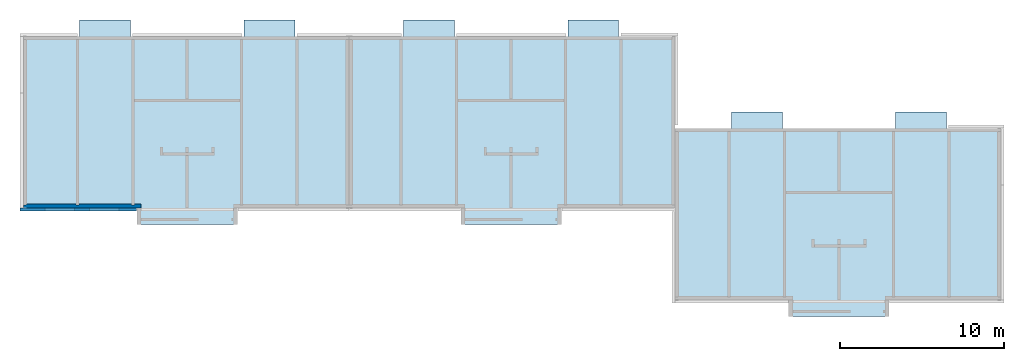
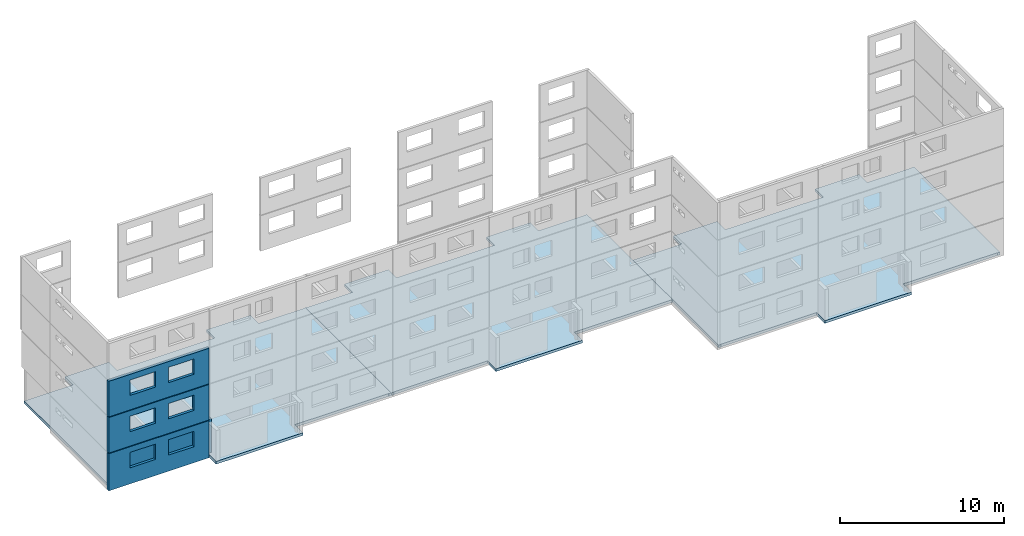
# One storey, part 7 of 15: 4 walls, 3 slabs, 6 openings.
"""IFC2X3 building model written with IfcOpenShell, lengths in metres."""

from ifc_helpers import new_model, si_unit, frame, origin, place, context, project, spatial, faceted_brep, element, save


model = new_model("IFC2X3")

# Units and contexts
model_context = context("Model", 3, precision=1e-06, world=origin())
ifc_project = project(units=[si_unit("LENGTHUNIT", "METRE"), si_unit("PLANEANGLEUNIT", "RADIAN")], contexts=[model_context])

# Site, building, storey
site = spatial("IfcSite", under=ifc_project, CompositionType="ELEMENT")
building = spatial("IfcBuilding", under=site, CompositionType="ELEMENT")
storey = spatial("IfcBuildingStorey", under=building, Name="rdc", CompositionType="ELEMENT", Elevation=0.0)

# Slabs
placement = place(None, origin())
slab_1_placement = place(placement, frame((-6e-15, -0.979922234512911, -0.2), z_axis=(0.0, 0.0, 1.0), x_axis=(1.0, 0.0, 0.0)))
element("IfcSlab", 1, at=slab_1_placement, inside=storey, PredefinedType="USERDEFINED", context=model_context, shape_type="Brep", body=[
    faceted_brep([(0.180000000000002, 11.470000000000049, 0.2), (0.180000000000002, 11.450000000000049, 0.2), (0.180000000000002, 11.450000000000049, 0.0), (0.180000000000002, 11.470000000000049, 0.0), (0.180000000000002, 11.450000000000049, 0.2), (3.430000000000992, 11.450000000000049, 0.2), (3.430000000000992, 11.450000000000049, 0.0), (0.180000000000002, 11.450000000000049, 0.0), (3.430000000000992, 11.450000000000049, 0.2), (3.430000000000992, 12.449999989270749, 0.2), (3.430000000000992, 12.449999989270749, 0.0), (3.430000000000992, 11.450000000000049, 0.0), (3.430000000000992, 12.449999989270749, 0.2), (6.530000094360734, 12.44999984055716, 0.2), (6.530000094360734, 12.44999984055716, 0.0), (3.430000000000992, 12.449999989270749, 0.0), (6.530000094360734, 12.44999984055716, 0.2), (6.530000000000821, 11.4499999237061, 0.2), (6.530000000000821, 11.4499999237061, 0.0), (6.530000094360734, 12.44999984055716, 0.0), (6.530000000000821, 11.4499999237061, 0.2), (13.44, 11.449999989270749, 0.2), (13.44, 11.449999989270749, 0.0), (6.530000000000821, 11.4499999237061, 0.0), (13.44, 11.449999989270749, 0.2), (13.439598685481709, 12.44999984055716, 0.2), (13.439598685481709, 12.44999984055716, 0.0), (13.44, 11.449999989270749, 0.0), (13.439598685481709, 12.44999984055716, 0.2), (16.539598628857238, 12.44999984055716, 0.2), (16.539598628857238, 12.44999984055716, 0.0), (13.439598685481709, 12.44999984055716, 0.0), (16.539598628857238, 12.44999984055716, 0.2), (16.53999999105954, 11.4499999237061, 0.2), (16.53999999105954, 11.4499999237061, 0.0), (16.539598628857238, 12.44999984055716, 0.0), (16.53999999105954, 11.4499999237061, 0.2), (19.669999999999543, 11.450000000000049, 0.2), (19.669999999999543, 11.450000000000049, 0.0), (16.53999999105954, 11.4499999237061, 0.0), (19.669999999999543, 11.450000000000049, 0.2), (19.669999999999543, 11.470000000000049, 0.2), (19.669999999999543, 11.470000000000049, 0.0), (19.669999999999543, 11.450000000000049, 0.0), (19.669999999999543, 11.470000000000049, 0.2), (19.849999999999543, 11.470000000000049, 0.2), (19.849999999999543, 11.470000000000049, 0.0), (19.669999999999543, 11.470000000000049, 0.0), (19.849999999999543, 11.470000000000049, 0.2), (19.849999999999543, 0.979922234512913, 0.2), (19.849999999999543, 0.979922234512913, 0.0), (19.849999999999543, 11.470000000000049, 0.0), (19.849999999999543, 0.979922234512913, 0.2), (19.669999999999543, 0.979922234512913, 0.2), (19.669999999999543, 0.979922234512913, 0.0), (19.849999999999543, 0.979922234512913, 0.0), (19.669999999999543, 0.979922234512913, 0.2), (19.669999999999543, 1.000085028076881, 0.2), (19.669999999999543, 1.000085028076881, 0.0), (19.669999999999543, 0.979922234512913, 0.0), (19.669999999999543, 1.000085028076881, 0.2), (13.045000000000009, 1.000085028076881, 0.2), (13.045000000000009, 1.000085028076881, 0.0), (19.669999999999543, 1.000085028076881, 0.0), (13.045000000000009, 1.000085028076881, 0.2), (13.045000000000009, 8.5242654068e-05, 0.2), (13.045000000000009, 8.5242654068e-05, 0.0), (13.045000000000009, 1.000085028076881, 0.0), (13.045000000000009, 8.5242654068e-05, 0.2), (6.925000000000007, 0.0, 0.2), (6.925000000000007, 0.0, 0.0), (13.045000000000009, 8.5242654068e-05, 0.0), (6.925000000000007, 0.0, 0.2), (6.925000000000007, 0.999999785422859, 0.2), (6.925000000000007, 0.999999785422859, 0.0), (6.925000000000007, 0.0, 0.0), (6.925000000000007, 0.999999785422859, 0.2), (0.18, 0.999999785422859, 0.2), (0.18, 0.999999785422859, 0.0), (6.925000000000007, 0.999999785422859, 0.0), (0.18, 0.999999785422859, 0.2), (0.18, 0.979922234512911, 0.2), (0.18, 0.979922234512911, 0.0), (0.18, 0.999999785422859, 0.0), (0.18, 0.979922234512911, 0.2), (0.0, 0.979922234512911, 0.2), (0.0, 0.979922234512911, 0.0), (0.18, 0.979922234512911, 0.0), (0.0, 0.979922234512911, 0.2), (2e-15, 11.470000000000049, 0.2), (2e-15, 11.470000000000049, 0.0), (0.0, 0.979922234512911, 0.0), (2e-15, 11.470000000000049, 0.2), (0.180000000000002, 11.470000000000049, 0.2), (0.180000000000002, 11.470000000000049, 0.0), (2e-15, 11.470000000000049, 0.0), (0.180000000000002, 11.470000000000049, 0.2), (2e-15, 11.470000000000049, 0.2), (0.0, 0.979922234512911, 0.2), (0.18, 0.979922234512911, 0.2), (0.18, 0.999999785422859, 0.2), (6.925000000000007, 0.999999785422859, 0.2), (6.925000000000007, 0.0, 0.2), (13.045000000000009, 8.5242654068e-05, 0.2), (13.045000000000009, 1.000085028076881, 0.2), (19.669999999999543, 1.000085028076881, 0.2), (19.669999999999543, 0.979922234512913, 0.2), (19.849999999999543, 0.979922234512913, 0.2), (19.849999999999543, 11.470000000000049, 0.2), (19.669999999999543, 11.470000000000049, 0.2), (19.669999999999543, 11.450000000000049, 0.2), (16.53999999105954, 11.4499999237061, 0.2), (16.539598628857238, 12.44999984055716, 0.2), (13.439598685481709, 12.44999984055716, 0.2), (13.44, 11.449999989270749, 0.2), (6.530000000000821, 11.4499999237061, 0.2), (6.530000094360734, 12.44999984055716, 0.2), (3.430000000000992, 12.449999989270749, 0.2), (3.430000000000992, 11.450000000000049, 0.2), (0.180000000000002, 11.450000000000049, 0.2), (0.180000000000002, 11.470000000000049, 0.0), (0.180000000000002, 11.450000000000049, 0.0), (3.430000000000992, 11.450000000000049, 0.0), (3.430000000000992, 12.449999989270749, 0.0), (6.530000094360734, 12.44999984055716, 0.0), (6.530000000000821, 11.4499999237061, 0.0), (13.44, 11.449999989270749, 0.0), (13.439598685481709, 12.44999984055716, 0.0), (16.539598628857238, 12.44999984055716, 0.0), (16.53999999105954, 11.4499999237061, 0.0), (19.669999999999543, 11.450000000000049, 0.0), (19.669999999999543, 11.470000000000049, 0.0), (19.849999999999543, 11.470000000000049, 0.0), (19.849999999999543, 0.979922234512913, 0.0), (19.669999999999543, 0.979922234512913, 0.0), (19.669999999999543, 1.000085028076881, 0.0), (13.045000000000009, 1.000085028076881, 0.0), (13.045000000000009, 8.5242654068e-05, 0.0), (6.925000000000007, 0.0, 0.0), (6.925000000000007, 0.999999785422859, 0.0), (0.18, 0.999999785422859, 0.0), (0.18, 0.979922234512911, 0.0), (0.0, 0.979922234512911, 0.0), (2e-15, 11.470000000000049, 0.0)], [[[0, 1, 2, 3]], [[4, 5, 6, 7]], [[8, 9, 10, 11]], [[12, 13, 14, 15]], [[16, 17, 18, 19]], [[20, 21, 22, 23]], [[24, 25, 26, 27]], [[28, 29, 30, 31]], [[32, 33, 34, 35]], [[36, 37, 38, 39]], [[40, 41, 42, 43]], [[44, 45, 46, 47]], [[48, 49, 50, 51]], [[52, 53, 54, 55]], [[56, 57, 58, 59]], [[60, 61, 62, 63]], [[64, 65, 66, 67]], [[68, 69, 70, 71]], [[72, 73, 74, 75]], [[76, 77, 78, 79]], [[80, 81, 82, 83]], [[84, 85, 86, 87]], [[88, 89, 90, 91]], [[92, 93, 94, 95]], [[96, 97, 98, 99, 100, 101, 102, 103, 104, 105, 106, 107, 108, 109, 110, 111, 112, 113, 114, 115, 116, 117, 118, 119]], [[120, 121, 122, 123, 124, 125, 126, 127, 128, 129, 130, 131, 132, 133, 134, 135, 136, 137, 138, 139, 140, 141, 142, 143]]]),
])
slab_2_placement = place(placement, frame((19.849999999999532, -0.97983699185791, -0.2), z_axis=(0.0, 0.0, 1.0), x_axis=(1.0, 0.0, 0.0)))
element("IfcSlab", 2, at=slab_2_placement, inside=storey, PredefinedType="USERDEFINED", context=model_context, shape_type="Brep", body=[
    faceted_brep([(0.180000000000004, 11.46991475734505, 0.2), (0.180000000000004, 11.44991475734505, 0.2), (0.180000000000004, 11.44991475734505, 0.0), (0.180000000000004, 11.46991475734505, 0.0), (0.180000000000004, 11.44991475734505, 0.2), (3.310000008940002, 11.4499146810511, 0.2), (3.310000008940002, 11.4499146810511, 0.0), (0.180000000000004, 11.44991475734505, 0.0), (3.310000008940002, 11.4499146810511, 0.2), (3.310401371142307, 12.44991459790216, 0.2), (3.310401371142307, 12.44991459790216, 0.0), (3.310000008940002, 11.4499146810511, 0.0), (3.310401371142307, 12.44991459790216, 0.2), (6.410401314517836, 12.44991459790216, 0.2), (6.410401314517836, 12.44991459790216, 0.0), (3.310401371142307, 12.44991459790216, 0.0), (6.410401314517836, 12.44991459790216, 0.2), (6.409999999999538, 11.44991474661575, 0.2), (6.409999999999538, 11.44991474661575, 0.0), (6.410401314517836, 12.44991459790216, 0.0), (6.409999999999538, 11.44991474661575, 0.2), (13.31999999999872, 11.4499146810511, 0.2), (13.31999999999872, 11.4499146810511, 0.0), (6.409999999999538, 11.44991474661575, 0.0), (13.31999999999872, 11.4499146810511, 0.2), (13.31999990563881, 12.44991459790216, 0.2), (13.31999990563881, 12.44991459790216, 0.0), (13.31999999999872, 11.4499146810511, 0.0), (13.31999990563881, 12.44991459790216, 0.2), (16.41999999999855, 12.44991474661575, 0.2), (16.41999999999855, 12.44991474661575, 0.0), (13.31999990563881, 12.44991459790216, 0.0), (16.41999999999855, 12.44991474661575, 0.2), (16.41999999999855, 11.44991475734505, 0.2), (16.41999999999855, 11.44991475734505, 0.0), (16.41999999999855, 12.44991474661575, 0.0), (16.41999999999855, 11.44991475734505, 0.2), (19.669999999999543, 11.44991475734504, 0.2), (19.669999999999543, 11.44991475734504, 0.0), (16.41999999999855, 11.44991475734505, 0.0), (19.669999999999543, 11.44991475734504, 0.2), (19.669999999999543, 11.46991475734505, 0.2), (19.669999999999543, 11.46991475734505, 0.0), (19.669999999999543, 11.44991475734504, 0.0), (19.669999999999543, 11.46991475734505, 0.2), (19.849999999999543, 11.46991475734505, 0.2), (19.849999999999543, 11.46991475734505, 0.0), (19.669999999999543, 11.46991475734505, 0.0), (19.849999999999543, 11.46991475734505, 0.2), (19.849999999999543, 0.999914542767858, 0.2), (19.849999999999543, 0.999914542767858, 0.0), (19.849999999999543, 11.46991475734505, 0.0), (19.849999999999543, 0.999914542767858, 0.2), (12.92499999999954, 0.999914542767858, 0.2), (12.92499999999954, 0.999914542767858, 0.0), (19.849999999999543, 0.999914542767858, 0.0), (12.92499999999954, 0.999914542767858, 0.2), (12.92499999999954, 0.0, 0.2), (12.92499999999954, 0.0, 0.0), (12.92499999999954, 0.999914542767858, 0.0), (12.92499999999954, 0.0, 0.2), (6.805000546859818, 9.32e-13, 0.2), (6.805000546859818, 9.32e-13, 0.0), (12.92499999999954, 0.0, 0.0), (6.805000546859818, 9.32e-13, 0.2), (6.805000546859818, 0.99999978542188, 0.2), (6.805000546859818, 0.99999978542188, 0.0), (6.805000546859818, 9.32e-13, 0.0), (6.805000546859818, 0.99999978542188, 0.2), (0.18, 0.99999978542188, 0.2), (0.18, 0.99999978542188, 0.0), (6.805000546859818, 0.99999978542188, 0.0), (0.18, 0.99999978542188, 0.2), (0.18, 0.979836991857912, 0.2), (0.18, 0.979836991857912, 0.0), (0.18, 0.99999978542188, 0.0), (0.18, 0.979836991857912, 0.2), (0.0, 0.979836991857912, 0.2), (0.0, 0.979836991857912, 0.0), (0.18, 0.979836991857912, 0.0), (0.0, 0.979836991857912, 0.2), (4e-15, 11.46991475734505, 0.2), (4e-15, 11.46991475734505, 0.0), (0.0, 0.979836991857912, 0.0), (4e-15, 11.46991475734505, 0.2), (0.180000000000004, 11.46991475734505, 0.2), (0.180000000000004, 11.46991475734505, 0.0), (4e-15, 11.46991475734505, 0.0), (0.180000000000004, 11.46991475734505, 0.2), (4e-15, 11.46991475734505, 0.2), (0.0, 0.979836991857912, 0.2), (0.18, 0.979836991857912, 0.2), (0.18, 0.99999978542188, 0.2), (6.805000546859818, 0.99999978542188, 0.2), (6.805000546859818, 9.32e-13, 0.2), (12.92499999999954, 0.0, 0.2), (12.92499999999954, 0.999914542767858, 0.2), (19.849999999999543, 0.999914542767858, 0.2), (19.849999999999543, 11.46991475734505, 0.2), (19.669999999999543, 11.46991475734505, 0.2), (19.669999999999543, 11.44991475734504, 0.2), (16.41999999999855, 11.44991475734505, 0.2), (16.41999999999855, 12.44991474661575, 0.2), (13.31999990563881, 12.44991459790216, 0.2), (13.31999999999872, 11.4499146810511, 0.2), (6.409999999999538, 11.44991474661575, 0.2), (6.410401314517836, 12.44991459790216, 0.2), (3.310401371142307, 12.44991459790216, 0.2), (3.310000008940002, 11.4499146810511, 0.2), (0.180000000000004, 11.44991475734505, 0.2), (0.180000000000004, 11.46991475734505, 0.0), (0.180000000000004, 11.44991475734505, 0.0), (3.310000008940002, 11.4499146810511, 0.0), (3.310401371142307, 12.44991459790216, 0.0), (6.410401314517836, 12.44991459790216, 0.0), (6.409999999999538, 11.44991474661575, 0.0), (13.31999999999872, 11.4499146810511, 0.0), (13.31999990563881, 12.44991459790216, 0.0), (16.41999999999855, 12.44991474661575, 0.0), (16.41999999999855, 11.44991475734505, 0.0), (19.669999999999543, 11.44991475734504, 0.0), (19.669999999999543, 11.46991475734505, 0.0), (19.849999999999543, 11.46991475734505, 0.0), (19.849999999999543, 0.999914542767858, 0.0), (12.92499999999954, 0.999914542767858, 0.0), (12.92499999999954, 0.0, 0.0), (6.805000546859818, 9.32e-13, 0.0), (6.805000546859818, 0.99999978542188, 0.0), (0.18, 0.99999978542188, 0.0), (0.18, 0.979836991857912, 0.0), (0.0, 0.979836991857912, 0.0), (4e-15, 11.46991475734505, 0.0)], [[[0, 1, 2, 3]], [[4, 5, 6, 7]], [[8, 9, 10, 11]], [[12, 13, 14, 15]], [[16, 17, 18, 19]], [[20, 21, 22, 23]], [[24, 25, 26, 27]], [[28, 29, 30, 31]], [[32, 33, 34, 35]], [[36, 37, 38, 39]], [[40, 41, 42, 43]], [[44, 45, 46, 47]], [[48, 49, 50, 51]], [[52, 53, 54, 55]], [[56, 57, 58, 59]], [[60, 61, 62, 63]], [[64, 65, 66, 67]], [[68, 69, 70, 71]], [[72, 73, 74, 75]], [[76, 77, 78, 79]], [[80, 81, 82, 83]], [[84, 85, 86, 87]], [[88, 89, 90, 91, 92, 93, 94, 95, 96, 97, 98, 99, 100, 101, 102, 103, 104, 105, 106, 107, 108, 109]], [[110, 111, 112, 113, 114, 115, 116, 117, 118, 119, 120, 121, 122, 123, 124, 125, 126, 127, 128, 129, 130, 131]]]),
])
slab_3_placement = place(placement, frame((39.69999999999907, -6.579922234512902, -0.2), z_axis=(0.0, 0.0, 1.0), x_axis=(1.0, 0.0, 0.0)))
element("IfcSlab", 3, at=slab_3_placement, inside=storey, PredefinedType="USERDEFINED", context=model_context, shape_type="Brep", body=[
    faceted_brep([(0.18, 11.450000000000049, 0.2), (3.430000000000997, 11.450000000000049, 0.2), (3.430000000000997, 11.450000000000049, 0.0), (0.18, 11.450000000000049, 0.0), (3.430000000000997, 11.450000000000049, 0.2), (3.430000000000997, 12.449999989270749, 0.2), (3.430000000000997, 12.449999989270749, 0.0), (3.430000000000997, 11.450000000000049, 0.0), (3.430000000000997, 12.449999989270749, 0.2), (6.530000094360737, 12.44999984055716, 0.2), (6.530000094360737, 12.44999984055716, 0.0), (3.430000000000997, 12.449999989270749, 0.0), (6.530000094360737, 12.44999984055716, 0.2), (6.530000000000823, 11.4499999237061, 0.2), (6.530000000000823, 11.4499999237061, 0.0), (6.530000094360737, 12.44999984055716, 0.0), (6.530000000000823, 11.4499999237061, 0.2), (13.44000000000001, 11.449999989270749, 0.2), (13.44000000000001, 11.449999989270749, 0.0), (6.530000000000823, 11.4499999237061, 0.0), (13.44000000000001, 11.449999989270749, 0.2), (13.439598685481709, 12.44999984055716, 0.2), (13.439598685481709, 12.44999984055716, 0.0), (13.44000000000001, 11.449999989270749, 0.0), (13.439598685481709, 12.44999984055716, 0.2), (16.539598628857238, 12.44999984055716, 0.2), (16.539598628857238, 12.44999984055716, 0.0), (13.439598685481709, 12.44999984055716, 0.0), (16.539598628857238, 12.44999984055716, 0.2), (16.53999999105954, 11.4499999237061, 0.2), (16.53999999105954, 11.4499999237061, 0.0), (16.539598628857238, 12.44999984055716, 0.0), (16.53999999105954, 11.4499999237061, 0.2), (19.669999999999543, 11.450000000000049, 0.2), (19.669999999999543, 11.450000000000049, 0.0), (16.53999999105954, 11.4499999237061, 0.0), (19.669999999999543, 11.450000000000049, 0.2), (19.669999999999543, 11.470000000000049, 0.2), (19.669999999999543, 11.470000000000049, 0.0), (19.669999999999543, 11.450000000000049, 0.0), (19.669999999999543, 11.470000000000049, 0.2), (19.849999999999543, 11.470000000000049, 0.2), (19.849999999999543, 11.470000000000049, 0.0), (19.669999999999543, 11.470000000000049, 0.0), (19.849999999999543, 11.470000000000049, 0.2), (19.849999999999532, 0.979922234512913, 0.2), (19.849999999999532, 0.979922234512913, 0.0), (19.849999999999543, 11.470000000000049, 0.0), (19.849999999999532, 0.979922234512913, 0.2), (19.669999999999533, 0.979922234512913, 0.2), (19.669999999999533, 0.979922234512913, 0.0), (19.849999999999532, 0.979922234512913, 0.0), (19.669999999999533, 0.979922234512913, 0.2), (19.669999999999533, 1.000085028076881, 0.2), (19.669999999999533, 1.000085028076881, 0.0), (19.669999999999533, 0.979922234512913, 0.0), (19.669999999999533, 1.000085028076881, 0.2), (13.04500000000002, 1.000085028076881, 0.2), (13.04500000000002, 1.000085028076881, 0.0), (19.669999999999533, 1.000085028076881, 0.0), (13.04500000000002, 1.000085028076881, 0.2), (13.04500000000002, 8.5242654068e-05, 0.2), (13.04500000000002, 8.5242654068e-05, 0.0), (13.04500000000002, 1.000085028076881, 0.0), (13.04500000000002, 8.5242654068e-05, 0.2), (6.925000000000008, 0.0, 0.2), (6.925000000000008, 0.0, 0.0), (13.04500000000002, 8.5242654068e-05, 0.0), (6.925000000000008, 0.0, 0.2), (6.925000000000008, 0.999999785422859, 0.2), (6.925000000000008, 0.999999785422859, 0.0), (6.925000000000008, 0.0, 0.0), (6.925000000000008, 0.999999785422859, 0.2), (0.18, 0.999999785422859, 0.2), (0.18, 0.999999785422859, 0.0), (6.925000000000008, 0.999999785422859, 0.0), (0.18, 0.999999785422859, 0.2), (0.18, 0.979922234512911, 0.2), (0.18, 0.979922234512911, 0.0), (0.18, 0.999999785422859, 0.0), (0.18, 0.979922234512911, 0.2), (0.0, 0.979922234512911, 0.2), (0.0, 0.979922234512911, 0.0), (0.18, 0.979922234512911, 0.0), (0.0, 0.979922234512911, 0.2), (7e-15, 11.450000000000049, 0.2), (7e-15, 11.450000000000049, 0.0), (0.0, 0.979922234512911, 0.0), (7e-15, 11.450000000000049, 0.2), (0.18, 11.450000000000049, 0.2), (0.18, 11.450000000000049, 0.0), (7e-15, 11.450000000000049, 0.0), (0.18, 11.450000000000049, 0.2), (7e-15, 11.450000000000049, 0.2), (0.0, 0.979922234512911, 0.2), (0.18, 0.979922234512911, 0.2), (0.18, 0.999999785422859, 0.2), (6.925000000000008, 0.999999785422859, 0.2), (6.925000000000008, 0.0, 0.2), (13.04500000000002, 8.5242654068e-05, 0.2), (13.04500000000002, 1.000085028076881, 0.2), (19.669999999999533, 1.000085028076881, 0.2), (19.669999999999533, 0.979922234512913, 0.2), (19.849999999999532, 0.979922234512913, 0.2), (19.849999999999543, 11.470000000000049, 0.2), (19.669999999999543, 11.470000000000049, 0.2), (19.669999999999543, 11.450000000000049, 0.2), (16.53999999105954, 11.4499999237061, 0.2), (16.539598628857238, 12.44999984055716, 0.2), (13.439598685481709, 12.44999984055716, 0.2), (13.44000000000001, 11.449999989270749, 0.2), (6.530000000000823, 11.4499999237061, 0.2), (6.530000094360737, 12.44999984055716, 0.2), (3.430000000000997, 12.449999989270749, 0.2), (3.430000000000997, 11.450000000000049, 0.2), (0.18, 11.450000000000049, 0.0), (3.430000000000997, 11.450000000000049, 0.0), (3.430000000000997, 12.449999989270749, 0.0), (6.530000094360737, 12.44999984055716, 0.0), (6.530000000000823, 11.4499999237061, 0.0), (13.44000000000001, 11.449999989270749, 0.0), (13.439598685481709, 12.44999984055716, 0.0), (16.539598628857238, 12.44999984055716, 0.0), (16.53999999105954, 11.4499999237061, 0.0), (19.669999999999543, 11.450000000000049, 0.0), (19.669999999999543, 11.470000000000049, 0.0), (19.849999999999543, 11.470000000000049, 0.0), (19.849999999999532, 0.979922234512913, 0.0), (19.669999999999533, 0.979922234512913, 0.0), (19.669999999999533, 1.000085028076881, 0.0), (13.04500000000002, 1.000085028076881, 0.0), (13.04500000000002, 8.5242654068e-05, 0.0), (6.925000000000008, 0.0, 0.0), (6.925000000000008, 0.999999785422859, 0.0), (0.18, 0.999999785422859, 0.0), (0.18, 0.979922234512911, 0.0), (0.0, 0.979922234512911, 0.0), (7e-15, 11.450000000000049, 0.0)], [[[0, 1, 2, 3]], [[4, 5, 6, 7]], [[8, 9, 10, 11]], [[12, 13, 14, 15]], [[16, 17, 18, 19]], [[20, 21, 22, 23]], [[24, 25, 26, 27]], [[28, 29, 30, 31]], [[32, 33, 34, 35]], [[36, 37, 38, 39]], [[40, 41, 42, 43]], [[44, 45, 46, 47]], [[48, 49, 50, 51]], [[52, 53, 54, 55]], [[56, 57, 58, 59]], [[60, 61, 62, 63]], [[64, 65, 66, 67]], [[68, 69, 70, 71]], [[72, 73, 74, 75]], [[76, 77, 78, 79]], [[80, 81, 82, 83]], [[84, 85, 86, 87]], [[88, 89, 90, 91]], [[92, 93, 94, 95, 96, 97, 98, 99, 100, 101, 102, 103, 104, 105, 106, 107, 108, 109, 110, 111, 112, 113, 114]], [[115, 116, 117, 118, 119, 120, 121, 122, 123, 124, 125, 126, 127, 128, 129, 130, 131, 132, 133, 134, 135, 136, 137]]]),
])

# Wall
wall_1_placement = place(placement, frame((-6e-15, 0.020077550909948, 0.0), z_axis=(0.0, 0.0, 1.0), x_axis=(1.0, 0.0, 0.0)))
element("IfcWall", 4, at=wall_1_placement, inside=storey, context=model_context, shape_type="Brep", body=[
    faceted_brep([(7.175000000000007, 0.0, 2.5), (0.0, 0.0, 2.5), (0.0, 0.0, 0.0), (7.175000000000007, 0.0, 0.0), (0.0, 0.0, 2.5), (0.0, 0.18, 2.5), (0.0, 0.18, 0.0), (0.0, 0.0, 0.0), (0.0, 0.18, 2.5), (0.18, 0.18, 2.5), (0.18, 0.18, 0.0), (0.0, 0.18, 0.0), (0.18, 0.18, 2.5), (0.18, 0.22, 2.5), (0.18, 0.22, 0.0), (0.18, 0.18, 0.0), (0.18, 0.22, 2.5), (0.22, 0.22, 2.5), (0.22, 0.22, 0.0), (0.18, 0.22, 0.0), (0.22, 0.22, 2.5), (0.22, 0.23, 2.5), (0.22, 0.23, 0.0), (0.22, 0.22, 0.0), (0.22, 0.23, 2.5), (3.200000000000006, 0.23, 2.5), (3.200000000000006, 0.23, 0.0), (0.22, 0.23, 0.0), (3.200000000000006, 0.23, 2.5), (3.200000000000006, 0.18, 2.5), (3.200000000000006, 0.18, 0.0), (3.200000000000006, 0.23, 0.0), (3.200000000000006, 0.18, 2.5), (3.380000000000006, 0.18, 2.5), (3.380000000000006, 0.18, 0.0), (3.200000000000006, 0.18, 0.0), (3.380000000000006, 0.18, 2.5), (3.380000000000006, 0.23, 2.5), (3.380000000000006, 0.23, 0.0), (3.380000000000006, 0.18, 0.0), (3.380000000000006, 0.23, 2.5), (6.580000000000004, 0.23, 2.5), (6.580000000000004, 0.23, 0.0), (3.380000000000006, 0.23, 0.0), (6.580000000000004, 0.23, 2.5), (6.580000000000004, 0.18, 2.5), (6.580000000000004, 0.18, 0.0), (6.580000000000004, 0.23, 0.0), (6.580000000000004, 0.18, 2.5), (6.760000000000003, 0.18, 2.5), (6.760000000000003, 0.18, 0.0), (6.580000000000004, 0.18, 0.0), (6.760000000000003, 0.18, 2.5), (6.760000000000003, 0.23, 2.5), (6.760000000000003, 0.23, 0.0), (6.760000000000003, 0.18, 0.0), (6.760000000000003, 0.23, 2.5), (7.175000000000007, 0.23, 2.5), (7.175000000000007, 0.23, 0.0), (6.760000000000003, 0.23, 0.0), (7.175000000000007, 0.23, 2.5), (7.175000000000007, 0.0, 2.5), (7.175000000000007, 0.0, 0.0), (7.175000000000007, 0.23, 0.0), (7.175000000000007, 0.0, 2.5), (7.175000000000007, 0.23, 2.5), (6.760000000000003, 0.23, 2.5), (6.760000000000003, 0.18, 2.5), (6.580000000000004, 0.18, 2.5), (6.580000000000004, 0.23, 2.5), (3.380000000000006, 0.23, 2.5), (3.380000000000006, 0.18, 2.5), (3.200000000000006, 0.18, 2.5), (3.200000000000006, 0.23, 2.5), (0.22, 0.23, 2.5), (0.22, 0.22, 2.5), (0.18, 0.22, 2.5), (0.18, 0.18, 2.5), (0.0, 0.18, 2.5), (0.0, 0.0, 2.5), (7.175000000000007, 0.0, 0.0), (0.0, 0.0, 0.0), (0.0, 0.18, 0.0), (0.18, 0.18, 0.0), (0.18, 0.22, 0.0), (0.22, 0.22, 0.0), (0.22, 0.23, 0.0), (3.200000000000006, 0.23, 0.0), (3.200000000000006, 0.18, 0.0), (3.380000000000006, 0.18, 0.0), (3.380000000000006, 0.23, 0.0), (6.580000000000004, 0.23, 0.0), (6.580000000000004, 0.18, 0.0), (6.760000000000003, 0.18, 0.0), (6.760000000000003, 0.23, 0.0), (7.175000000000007, 0.23, 0.0)], [[[0, 1, 2, 3]], [[4, 5, 6, 7]], [[8, 9, 10, 11]], [[12, 13, 14, 15]], [[16, 17, 18, 19]], [[20, 21, 22, 23]], [[24, 25, 26, 27]], [[28, 29, 30, 31]], [[32, 33, 34, 35]], [[36, 37, 38, 39]], [[40, 41, 42, 43]], [[44, 45, 46, 47]], [[48, 49, 50, 51]], [[52, 53, 54, 55]], [[56, 57, 58, 59]], [[60, 61, 62, 63]], [[64, 65, 66, 67, 68, 69, 70, 71, 72, 73, 74, 75, 76, 77, 78, 79]], [[80, 81, 82, 83, 84, 85, 86, 87, 88, 89, 90, 91, 92, 93, 94, 95]]]),
])

# Wall, openings
wall_2_placement = place(placement, frame((-0.187000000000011, -0.166922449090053, -0.199999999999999), z_axis=(0.0, 0.0, 1.0), x_axis=(1.0, 0.0, 0.0)))
wall_2 = element("IfcWall", 5, at=wall_2_placement, inside=storey, Name="rdc3", context=model_context, shape_type="Brep", body=[
    faceted_brep([(0.0, 0.0, 2.775), (0.0, 0.187, 2.775), (0.0, 0.187, 0.0), (0.0, 0.0, 0.0), (0.0, 0.187, 2.775), (7.087000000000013, 0.187, 2.775), (7.087000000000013, 0.187, 0.0), (0.0, 0.187, 0.0), (7.087000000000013, 0.187, 2.775), (7.087000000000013, 0.0, 2.775), (7.087000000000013, 0.0, 0.0), (7.087000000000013, 0.187, 0.0), (7.087000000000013, 0.0, 2.775), (0.0, 0.0, 2.775), (0.0, 0.0, 0.0), (7.087000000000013, 0.0, 0.0), (0.0, 0.0, 2.775), (7.087000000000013, 0.0, 2.775), (7.087000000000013, 0.187, 2.775), (0.0, 0.187, 2.775), (0.0, 0.0, 0.0), (0.0, 0.187, 0.0), (7.087000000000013, 0.187, 0.0), (7.087000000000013, 0.0, 0.0)], [[[0, 1, 2, 3]], [[4, 5, 6, 7]], [[8, 9, 10, 11]], [[12, 13, 14, 15]], [[16, 17, 18, 19]], [[20, 21, 22, 23]]]),
])
opening_1_placement = place(placement, frame((1.325000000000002, -0.166922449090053, 1.0), z_axis=(0.0, 0.0, 1.0), x_axis=(1.0, 0.0, 0.0)))
element("IfcOpeningElement", 6, at=opening_1_placement, cuts=wall_2, Name="Opening", context=model_context, shape_type="Brep", body=[
    faceted_brep([(0.0, 0.187, 0.0), (1.8, 0.187, 0.0), (1.8, 0.0, 0.0), (0.0, 0.0, 0.0), (1.8, 0.0, 1.15), (1.8, 0.187, 1.15), (0.0, 0.187, 1.15), (0.0, 0.0, 1.15), (0.0, 0.187, 0.0), (0.0, 0.0, 0.0), (0.0, 0.0, 1.15), (0.0, 0.187, 1.15), (1.8, 0.187, 0.0), (0.0, 0.187, 0.0), (0.0, 0.187, 1.15), (1.8, 0.187, 1.15), (1.8, 0.0, 0.0), (1.8, 0.187, 0.0), (1.8, 0.187, 1.15), (1.8, 0.0, 1.15), (0.0, 0.0, 0.0), (1.8, 0.0, 0.0), (1.8, 0.0, 1.15), (0.0, 0.0, 1.15)], [[[0, 1, 2, 3]], [[4, 5, 6, 7]], [[8, 9, 10, 11]], [[12, 13, 14, 15]], [[16, 17, 18, 19]], [[20, 21, 22, 23]]]),
])
opening_2_placement = place(placement, frame((4.030000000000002, -0.166922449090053, 1.0), z_axis=(0.0, 0.0, 1.0), x_axis=(1.0, 0.0, 0.0)))
element("IfcOpeningElement", 7, at=opening_2_placement, cuts=wall_2, Name="Opening", context=model_context, shape_type="Brep", body=[
    faceted_brep([(0.0, 0.187, 0.0), (1.8, 0.187, 0.0), (1.8, 0.0, 0.0), (0.0, 0.0, 0.0), (1.8, 0.0, 1.15), (1.8, 0.187, 1.15), (0.0, 0.187, 1.15), (0.0, 0.0, 1.15), (0.0, 0.187, 0.0), (0.0, 0.0, 0.0), (0.0, 0.0, 1.15), (0.0, 0.187, 1.15), (1.8, 0.187, 0.0), (0.0, 0.187, 0.0), (0.0, 0.187, 1.15), (1.8, 0.187, 1.15), (1.8, 0.0, 0.0), (1.8, 0.187, 0.0), (1.8, 0.187, 1.15), (1.8, 0.0, 1.15), (0.0, 0.0, 0.0), (1.8, 0.0, 0.0), (1.8, 0.0, 1.15), (0.0, 0.0, 1.15)], [[[0, 1, 2, 3]], [[4, 5, 6, 7]], [[8, 9, 10, 11]], [[12, 13, 14, 15]], [[16, 17, 18, 19]], [[20, 21, 22, 23]]]),
])

wall_3_placement = place(placement, frame((-0.187000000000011, -0.166922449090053, 5.325000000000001), z_axis=(0.0, 0.0, 1.0), x_axis=(1.0, 0.0, 0.0)))
wall_3 = element("IfcWall", 8, at=wall_3_placement, inside=storey, context=model_context, shape_type="Brep", body=[
    faceted_brep([(0.0, 0.0, 2.65), (0.0, 0.187, 2.65), (0.0, 0.187, 0.0), (0.0, 0.0, 0.0), (0.0, 0.187, 2.65), (7.087000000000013, 0.187, 2.65), (7.087000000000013, 0.187, 0.0), (0.0, 0.187, 0.0), (7.087000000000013, 0.187, 2.65), (7.087000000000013, 0.0, 2.65), (7.087000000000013, 0.0, 0.0), (7.087000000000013, 0.187, 0.0), (7.087000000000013, 0.0, 2.65), (0.0, 0.0, 2.65), (0.0, 0.0, 0.0), (7.087000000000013, 0.0, 0.0), (0.0, 0.0, 2.65), (7.087000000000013, 0.0, 2.65), (7.087000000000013, 0.187, 2.65), (0.0, 0.187, 2.65), (0.0, 0.0, 0.0), (0.0, 0.187, 0.0), (7.087000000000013, 0.187, 0.0), (7.087000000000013, 0.0, 0.0)], [[[0, 1, 2, 3]], [[4, 5, 6, 7]], [[8, 9, 10, 11]], [[12, 13, 14, 15]], [[16, 17, 18, 19]], [[20, 21, 22, 23]]]),
])
opening_3_placement = place(placement, frame((1.324999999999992, -0.166922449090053, 6.400000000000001), z_axis=(0.0, 0.0, 1.0), x_axis=(1.0, 0.0, 0.0)))
element("IfcOpeningElement", 9, at=opening_3_placement, cuts=wall_3, Name="Opening", context=model_context, shape_type="Brep", body=[
    faceted_brep([(0.0, 0.187, 0.0), (1.8, 0.187, 0.0), (1.8, 0.0, 0.0), (0.0, 0.0, 0.0), (1.8, 0.0, 1.15), (1.8, 0.187, 1.15), (0.0, 0.187, 1.15), (0.0, 0.0, 1.15), (0.0, 0.187, 0.0), (0.0, 0.0, 0.0), (0.0, 0.0, 1.15), (0.0, 0.187, 1.15), (1.8, 0.187, 0.0), (0.0, 0.187, 0.0), (0.0, 0.187, 1.15), (1.8, 0.187, 1.15), (1.8, 0.0, 0.0), (1.8, 0.187, 0.0), (1.8, 0.187, 1.15), (1.8, 0.0, 1.15), (0.0, 0.0, 0.0), (1.8, 0.0, 0.0), (1.8, 0.0, 1.15), (0.0, 0.0, 1.15)], [[[0, 1, 2, 3]], [[4, 5, 6, 7]], [[8, 9, 10, 11]], [[12, 13, 14, 15]], [[16, 17, 18, 19]], [[20, 21, 22, 23]]]),
])
opening_4_placement = place(placement, frame((4.024999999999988, -0.166922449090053, 6.400000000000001), z_axis=(0.0, 0.0, 1.0), x_axis=(1.0, 0.0, 0.0)))
element("IfcOpeningElement", 10, at=opening_4_placement, cuts=wall_3, Name="Opening", context=model_context, shape_type="Brep", body=[
    faceted_brep([(0.0, 0.187, 0.0), (1.8, 0.187, 0.0), (1.8, 0.0, 0.0), (0.0, 0.0, 0.0), (1.8, 0.0, 1.15), (1.8, 0.187, 1.15), (0.0, 0.187, 1.15), (0.0, 0.0, 1.15), (0.0, 0.187, 0.0), (0.0, 0.0, 0.0), (0.0, 0.0, 1.15), (0.0, 0.187, 1.15), (1.8, 0.187, 0.0), (0.0, 0.187, 0.0), (0.0, 0.187, 1.15), (1.8, 0.187, 1.15), (1.8, 0.0, 0.0), (1.8, 0.187, 0.0), (1.8, 0.187, 1.15), (1.8, 0.0, 1.15), (0.0, 0.0, 0.0), (1.8, 0.0, 0.0), (1.8, 0.0, 1.15), (0.0, 0.0, 1.15)], [[[0, 1, 2, 3]], [[4, 5, 6, 7]], [[8, 9, 10, 11]], [[12, 13, 14, 15]], [[16, 17, 18, 19]], [[20, 21, 22, 23]]]),
])

wall_4_placement = place(placement, frame((-0.187000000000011, -0.166922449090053, 2.625000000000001), z_axis=(0.0, 0.0, 1.0), x_axis=(1.0, 0.0, 0.0)))
wall_4 = element("IfcWall", 11, at=wall_4_placement, inside=storey, context=model_context, shape_type="Brep", body=[
    faceted_brep([(0.0, 0.0, 2.65), (0.0, 0.187, 2.65), (0.0, 0.187, 0.0), (0.0, 0.0, 0.0), (0.0, 0.187, 2.65), (7.087000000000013, 0.187, 2.65), (7.087000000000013, 0.187, 0.0), (0.0, 0.187, 0.0), (7.087000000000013, 0.187, 2.65), (7.087000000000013, 0.0, 2.65), (7.087000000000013, 0.0, 0.0), (7.087000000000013, 0.187, 0.0), (7.087000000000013, 0.0, 2.65), (0.0, 0.0, 2.65), (0.0, 0.0, 0.0), (7.087000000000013, 0.0, 0.0), (0.0, 0.0, 2.65), (7.087000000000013, 0.0, 2.65), (7.087000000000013, 0.187, 2.65), (0.0, 0.187, 2.65), (0.0, 0.0, 0.0), (0.0, 0.187, 0.0), (7.087000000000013, 0.187, 0.0), (7.087000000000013, 0.0, 0.0)], [[[0, 1, 2, 3]], [[4, 5, 6, 7]], [[8, 9, 10, 11]], [[12, 13, 14, 15]], [[16, 17, 18, 19]], [[20, 21, 22, 23]]]),
])
opening_5_placement = place(placement, frame((4.024999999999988, -0.166922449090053, 3.700000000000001), z_axis=(0.0, 0.0, 1.0), x_axis=(1.0, 0.0, 0.0)))
element("IfcOpeningElement", 12, at=opening_5_placement, cuts=wall_4, Name="Opening", context=model_context, shape_type="Brep", body=[
    faceted_brep([(0.0, 0.187, 0.0), (1.8, 0.187, 0.0), (1.8, 0.0, 0.0), (0.0, 0.0, 0.0), (1.8, 0.0, 1.15), (1.8, 0.187, 1.15), (0.0, 0.187, 1.15), (0.0, 0.0, 1.15), (0.0, 0.187, 0.0), (0.0, 0.0, 0.0), (0.0, 0.0, 1.15), (0.0, 0.187, 1.15), (1.8, 0.187, 0.0), (0.0, 0.187, 0.0), (0.0, 0.187, 1.15), (1.8, 0.187, 1.15), (1.8, 0.0, 0.0), (1.8, 0.187, 0.0), (1.8, 0.187, 1.15), (1.8, 0.0, 1.15), (0.0, 0.0, 0.0), (1.8, 0.0, 0.0), (1.8, 0.0, 1.15), (0.0, 0.0, 1.15)], [[[0, 1, 2, 3]], [[4, 5, 6, 7]], [[8, 9, 10, 11]], [[12, 13, 14, 15]], [[16, 17, 18, 19]], [[20, 21, 22, 23]]]),
])
opening_6_placement = place(placement, frame((1.324999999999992, -0.166922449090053, 3.700000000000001), z_axis=(0.0, 0.0, 1.0), x_axis=(1.0, 0.0, 0.0)))
element("IfcOpeningElement", 13, at=opening_6_placement, cuts=wall_4, Name="Opening", context=model_context, shape_type="Brep", body=[
    faceted_brep([(0.0, 0.187, 0.0), (1.8, 0.187, 0.0), (1.8, 0.0, 0.0), (0.0, 0.0, 0.0), (1.8, 0.0, 1.15), (1.8, 0.187, 1.15), (0.0, 0.187, 1.15), (0.0, 0.0, 1.15), (0.0, 0.187, 0.0), (0.0, 0.0, 0.0), (0.0, 0.0, 1.15), (0.0, 0.187, 1.15), (1.8, 0.187, 0.0), (0.0, 0.187, 0.0), (0.0, 0.187, 1.15), (1.8, 0.187, 1.15), (1.8, 0.0, 0.0), (1.8, 0.187, 0.0), (1.8, 0.187, 1.15), (1.8, 0.0, 1.15), (0.0, 0.0, 0.0), (1.8, 0.0, 0.0), (1.8, 0.0, 1.15), (0.0, 0.0, 1.15)], [[[0, 1, 2, 3]], [[4, 5, 6, 7]], [[8, 9, 10, 11]], [[12, 13, 14, 15]], [[16, 17, 18, 19]], [[20, 21, 22, 23]]]),
])

save(model, "model.ifc")
